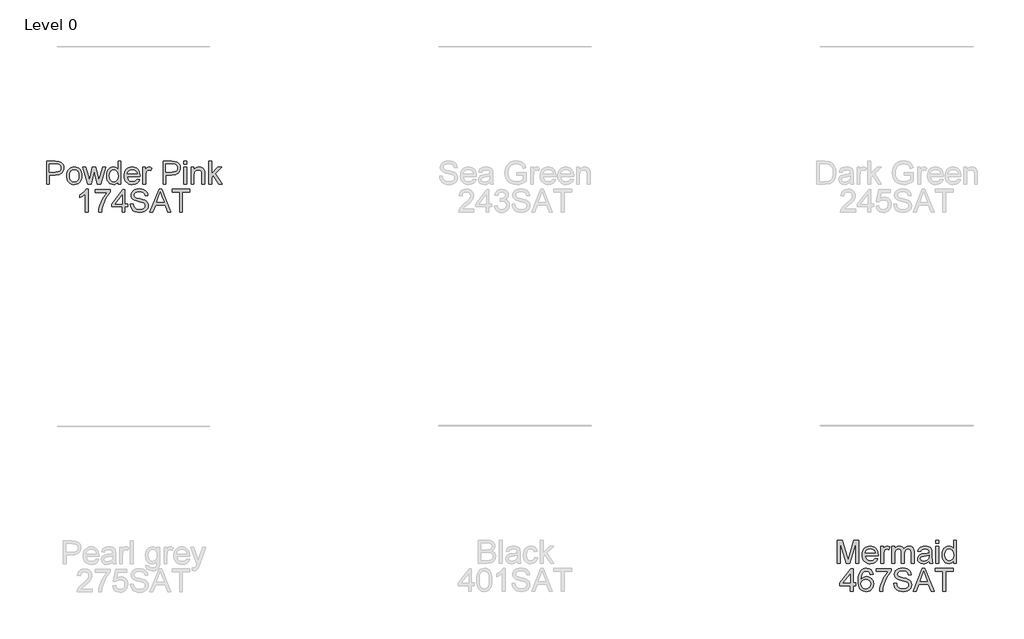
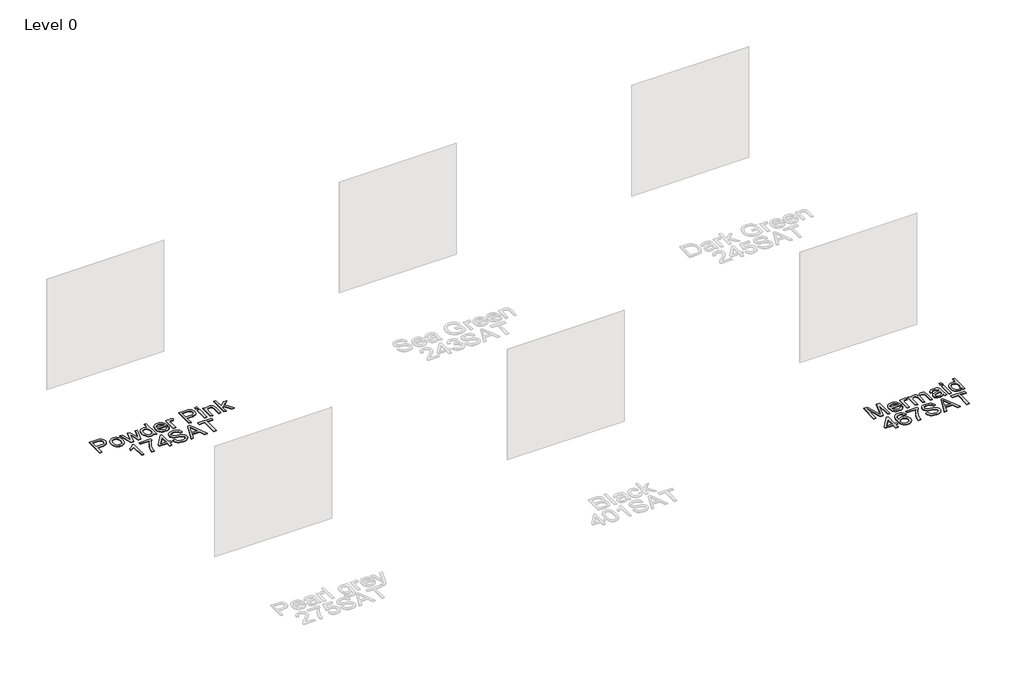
# One storey, part 30 of 37: 2 proxies.
"""IFC4 building model written with IfcOpenShell, lengths in millimetres."""

from ifc_helpers import new_model, si_unit, origin, origin_with_axes, place, context, project, spatial, polyline, outline, extrude, element, save

model = new_model("IFC4")

# Units and contexts
model_context = context("Model", 3, world=origin())
ifc_project = project(units=[si_unit("LENGTHUNIT", "METRE", prefix="MILLI")], contexts=[model_context])

# Site, building, storey
site = spatial("IfcSite", under=ifc_project)
building = spatial("IfcBuilding", under=site)
storey = spatial("IfcBuildingStorey", under=building, Name="Level 0", Elevation=0.0)

# Proxies
placement = place(None, origin())
element("IfcBuildingElementProxy", 1, Name="300mm Arial", ObjectType="300mm Arial", at=placement, inside=storey, context=model_context, shape_type="SweptSolid", body=[
    extrude(outline(polyline([(17412.1451202, -7002.860494), (17412.1451202, -6701.4915635), (17523.8340939, -6701.4915635), (17568.8628501, -6704.3610431), (17588.94001, -6709.7229232), (17605.4671087, -6718.4509235), (17618.7752398, -6730.9405172), (17629.1954974, -6747.5871775), (17635.9277379, -6767.222879), (17638.171818, -6788.6795964), (17636.6566041, -6807.1794622), (17632.1109622, -6824.198603), (17624.5348923, -6839.7370188), (17613.9283946, -6853.7947095), (17599.3671653, -6865.4473717), (17579.9269012, -6873.7707019), (17555.607602, -6878.7647), (17526.4092679, -6880.429366), (17449.8162365, -6880.429366), (17449.8162365, -7002.860494), (17412.1451202, -7002.860494)]), holes=[polyline([(17449.8162365, -6842.7582497), (17528.6165599, -6842.7582497), (17562.020245, -6839.3001589), (17584.0931647, -6828.9258867), (17596.3988175, -6812.2792264), (17600.5007017, -6790.0039716), (17598.0818776, -6773.0813998), (17590.8254053, -6758.8075784), (17579.6325956, -6748.0654241), (17565.4047594, -6741.7378538), (17527.7336431, -6739.1626798), (17449.8162365, -6739.1626798), (17449.8162365, -6842.7582497)])]), origin_with_axes(), (0.0, 0.0, 1.0), 10.0),
    extrude(outline(polyline([(17675.8429343, -6892.2015898), (17677.8800809, -6863.5389839), (17683.9915205, -6838.8403064), (17694.1772533, -6818.1055575), (17708.4372791, -6801.334737), (17722.793874, -6790.6155754), (17738.6403909, -6782.9590314), (17755.9768299, -6778.3651049), (17774.803191, -6776.8337961), (17795.5862245, -6778.698498), (17814.3780967, -6784.2926036), (17831.1788075, -6793.6161129), (17845.9883571, -6806.669026), (17858.0755799, -6823.0098843), (17866.7093105, -6842.1972296), (17871.8895488, -6864.2310619), (17873.616295, -6889.1113811), (17870.5628744, -6927.1687735), (17861.4026127, -6956.1394806), (17846.4022244, -6977.8353213), (17825.8284238, -6994.0681143), (17801.3918622, -7004.1940662), (17774.803191, -7007.5693835), (17753.7166549, -7005.7115794), (17734.7500388, -7000.1381672), (17717.9033427, -6990.8491468), (17703.1765666, -6977.8445183), (17691.2181025, -6961.3450108), (17682.6763424, -6941.5713536), (17677.5512864, -6918.5235466), (17675.8429343, -6892.2015898)]), holes=[polyline([(17713.5140507, -6892.1280134), (17717.8734523, -6926.2214773), (17730.9516572, -6950.5108861), (17750.633344, -6965.0514219), (17774.803191, -6969.8982672), (17798.8626735, -6965.0238308), (17818.5075721, -6950.4005215), (17831.585777, -6925.789216), (17835.9451786, -6890.950791), (17831.5581859, -6857.8506085), (17818.3972075, -6833.8922936), (17798.7247178, -6819.3517577), (17774.803191, -6814.5049125), (17750.633344, -6819.3333636), (17730.9516572, -6833.8187172), (17717.8734523, -6858.0529436), (17713.5140507, -6892.1280134)])]), origin_with_axes(), (0.0, 0.0, 1.0), 10.0),
    extrude(outline(polyline([(17952.7109239, -7002.860494), (17885.3885188, -6781.5426857), (17924.5311631, -6781.5426857), (17962.7173142, -6910.669266), (17974.121656, -6956.8016682), (17983.4658587, -6912.3615232), (18013.8529115, -6781.5426857), (18058.7345149, -6781.5426857), (18088.9744149, -6911.9936412), (18097.288548, -6952.2399314), (18109.2079247, -6909.7863492), (18147.4676522, -6781.5426857), (18186.7574492, -6781.5426857), (18118.9200093, -7002.860494), (18073.3762183, -7002.860494), (18044.4606935, -6873.0717261), (18036.072984, -6832.6047066), (17998.7697497, -7002.860494), (17952.7109239, -7002.860494)])), origin_with_axes(), (0.0, 0.0, 1.0), 10.0),
    extrude(outline(polyline([(18349.2141383, -7002.860494), (18349.2141383, -6967.3230932), (18337.9431537, -6984.9308452), (18324.2901331, -6997.507811), (18308.2550767, -7005.0539904), (18289.8379843, -7007.5693835), (18265.4841962, -7003.9273518), (18243.1905473, -6993.0012565), (18224.318201, -6975.5544529), (18210.2283205, -6952.350296), (18201.454335, -6924.3268851), (18198.5296731, -6892.422319), (18201.2244087, -6860.9132261), (18209.3086156, -6832.4575538), (18222.7730966, -6808.6739828), (18241.6086547, -6791.181194), (18264.3897473, -6780.4206456), (18289.6908315, -6776.8337961), (18308.1217195, -6779.3997731), (18324.4188918, -6787.0977038), (18338.2328608, -6798.8975188), (18349.2141383, -6813.7691485), (18349.2141383, -6701.4915635), (18386.8852546, -6701.4915635), (18386.8852546, -7002.860494), (18349.2141383, -7002.860494)]), holes=[polyline([(18236.2007894, -6892.2751662), (18240.4498264, -6926.350236), (18253.1969376, -6950.5844625), (18271.719796, -6965.069816), (18293.296075, -6969.8982672), (18314.863157, -6965.2905452), (18332.9169659, -6951.4673793), (18345.1398452, -6928.1712519), (18349.2141383, -6895.1446458), (18345.0662688, -6859.037028), (18332.6226603, -6834.0026582), (18314.1089989, -6819.3793489), (18291.7509707, -6814.5049125), (18269.9539625, -6819.1862108), (18252.0932916, -6833.230106), (18240.1739149, -6857.3539678), (18236.2007894, -6892.2751662)])]), origin_with_axes(), (0.0, 0.0, 1.0), 10.0),
    extrude(outline(polyline([(18598.3438255, -6936.9360404), (18635.2791778, -6941.64493), (18621.9710466, -6969.4752029), (18600.7350584, -6990.2789297), (18572.0494598, -7003.2467701), (18536.3924975, -7007.5693835), (18513.0181952, -7005.7046817), (18492.1914757, -7000.1105761), (18473.9123391, -6990.7870668), (18458.1807853, -6977.7341537), (18445.5302432, -6961.3151204), (18436.4941417, -6941.8932503), (18431.0724808, -6919.4685435), (18429.2652605, -6894.0409998), (18431.0908749, -6867.7512327), (18436.5677181, -6844.5792656), (18445.6957901, -6824.5250983), (18458.4750909, -6807.5887309), (18474.165258, -6794.133447), (18492.0259288, -6784.5225298), (18512.0571035, -6778.7559796), (18534.2587819, -6776.8337961), (18555.7453897, -6778.751381), (18575.1764568, -6784.5041357), (18592.5519833, -6794.0920602), (18607.8719691, -6807.5151545), (18620.3776577, -6824.4147337), (18629.3102924, -6844.4321128), (18634.6698732, -6867.5672917), (18636.4564002, -6893.8202706), (18636.235671, -6903.9738137), (18466.9363768, -6903.9738137), (18473.4570851, -6932.1719686), (18488.6046263, -6952.902119), (18510.4660139, -6965.6492302), (18537.1282615, -6969.8982672), (18557.1778302, -6967.9300985), (18574.0636138, -6962.0255925), (18587.7856122, -6951.8168672), (18598.3438255, -6936.9360404)]), holes=[polyline([(18466.9363768, -6866.3026974), (18598.7852838, -6866.3026974), (18593.6901182, -6846.4002814), (18583.702122, -6832.1632482), (18561.7395669, -6818.9194964), (18534.1116291, -6814.5049125), (18508.7185744, -6818.0273826), (18487.7217095, -6828.5947929), (18473.1259913, -6845.0667092), (18466.9363768, -6866.3026974)])]), origin_with_axes(), (0.0, 0.0, 1.0), 10.0),
    extrude(outline(polyline([(18674.1275165, -7002.860494), (18674.1275165, -6781.5426857), (18707.0897432, -6781.5426857), (18707.0897432, -6814.2841833), (18719.2666373, -6795.3014723), (18730.4870381, -6784.1178596), (18741.7442272, -6778.654812), (18754.0314858, -6776.8337961), (18772.7934676, -6779.7400639), (18791.8497549, -6788.4588672), (18779.2681907, -6822.2304343), (18766.0244389, -6816.4362929), (18752.780687, -6814.5049125), (18741.532695, -6816.3627165), (18731.4803195, -6821.9361288), (18723.3593245, -6830.8020848), (18717.9054739, -6842.5375205), (18713.325343, -6863.5803706), (18711.7986328, -6886.5362071), (18711.7986328, -7002.860494), (18674.1275165, -7002.860494)])), origin_with_axes(), (0.0, 0.0, 1.0), 10.0),
    extrude(outline(polyline([(18937.8253306, -7002.860494), (18937.8253306, -6701.4915635), (19049.5143043, -6701.4915635), (19094.5430605, -6704.3610431), (19114.6202204, -6709.7229232), (19131.1473191, -6718.4509235), (19144.4554502, -6730.9405172), (19154.8757078, -6747.5871775), (19161.6079483, -6767.222879), (19163.8520284, -6788.6795964), (19162.3368145, -6807.1794622), (19157.7911726, -6824.198603), (19150.2151027, -6839.7370188), (19139.608605, -6853.7947095), (19125.0473757, -6865.4473717), (19105.6071115, -6873.7707019), (19081.2878124, -6878.7647), (19052.0894783, -6880.429366), (18975.4964469, -6880.429366), (18975.4964469, -7002.860494), (18937.8253306, -7002.860494)]), holes=[polyline([(18975.4964469, -6842.7582497), (19054.2967703, -6842.7582497), (19087.7004554, -6839.3001589), (19109.7733751, -6828.9258867), (19122.0790279, -6812.2792264), (19126.1809121, -6790.0039716), (19123.762088, -6773.0813998), (19116.5056157, -6758.8075784), (19105.312806, -6748.0654241), (19091.0849698, -6741.7378538), (19053.4138535, -6739.1626798), (18975.4964469, -6739.1626798), (18975.4964469, -6842.7582497)])]), origin_with_axes(), (0.0, 0.0, 1.0), 10.0),
    extrude(outline(polyline([(19210.9409238, -6739.1626798), (19210.9409238, -6701.4915635), (19248.6120401, -6701.4915635), (19248.6120401, -6739.1626798), (19210.9409238, -6739.1626798)])), origin_with_axes(), (0.0, 0.0, 1.0), 10.0),
    extrude(outline(polyline([(19210.9409238, -7002.860494), (19210.9409238, -6781.5426857), (19248.6120401, -6781.5426857), (19248.6120401, -7002.860494), (19210.9409238, -7002.860494)])), origin_with_axes(), (0.0, 0.0, 1.0), 10.0),
    extrude(outline(polyline([(19305.1187146, -7002.860494), (19305.1187146, -6781.5426857), (19342.7898309, -6781.5426857), (19342.7898309, -6812.4447733), (19355.8772329, -6796.8649708), (19371.5949911, -6785.7365404), (19389.9431056, -6779.0594822), (19410.9215764, -6776.8337961), (19429.4904201, -6778.6272209), (19446.4957653, -6784.0074951), (19460.6776162, -6792.303234), (19470.775977, -6802.8430532), (19482.0699543, -6830.5445674), (19484.056517, -6866.964885), (19484.056517, -7002.860494), (19446.3854007, -7002.860494), (19446.3854007, -6872.0416565), (19442.0443932, -6838.7115477), (19436.0387196, -6828.7879309), (19426.703714, -6821.0900002), (19414.7383521, -6816.1511844), (19400.8416097, -6814.5049125), (19378.7778871, -6818.2021265), (19359.9699201, -6829.2937687), (19352.4536311, -6838.3482643), (19347.0848532, -6850.7228949), (19342.7898309, -6885.4325611), (19342.7898309, -7002.860494), (19305.1187146, -7002.860494)])), origin_with_axes(), (0.0, 0.0, 1.0), 10.0),
    extrude(outline(polyline([(19535.854302, -7002.860494), (19535.854302, -6701.4915635), (19573.5254183, -6701.4915635), (19573.5254183, -6863.4332178), (19657.9911244, -6781.5426857), (19710.0832149, -6781.5426857), (19624.5874392, -6864.4632874), (19714.7921044, -7002.860494), (19670.7934178, -7002.860494), (19597.5849007, -6890.6564855), (19573.5254183, -6913.9802039), (19573.5254183, -7002.860494), (19535.854302, -7002.860494)])), origin_with_axes(), (0.0, 0.0, 1.0), 10.0),
    extrude(outline(polyline([(17958.3763066, -7368.7849475), (17920.7051903, -7368.7849475), (17920.7051903, -7133.9290818), (17885.0206368, -7159.3497277), (17845.3629577, -7178.3692268), (17845.3629577, -7142.7582497), (17874.9498672, -7126.6634124), (17900.5820452, -7107.5151545), (17920.7879638, -7087.1528861), (17934.096095, -7067.4160171), (17958.3763066, -7067.4160171), (17958.3763066, -7368.7849475)])), origin_with_axes(), (0.0, 0.0, 1.0), 10.0),
    extrude(outline(polyline([(18047.8452079, -7109.7960229), (18047.8452079, -7072.1249066), (18245.6185685, -7072.1249066), (18245.6185685, -7102.5855358), (18217.4296106, -7138.2608923), (18189.5165642, -7183.6299393), (18164.8960617, -7234.5540045), (18146.5847354, -7286.8944154), (18137.6084147, -7326.0554538), (18132.6052196, -7368.7849475), (18094.9341033, -7368.7849475), (18099.0083963, -7329.9550029), (18109.9069005, -7283.8042066), (18127.33531, -7234.8850983), (18150.9993193, -7187.7502177), (18178.6272572, -7145.1402856), (18207.9474522, -7109.7960229), (18047.8452079, -7109.7960229)])), origin_with_axes(), (0.0, 0.0, 1.0), 10.0),
    extrude(outline(polyline([(18401.0119232, -7368.7849475), (18401.0119232, -7298.1516044), (18264.4541266, -7298.1516044), (18264.4541266, -7260.4804881), (18410.4297023, -7072.1249066), (18438.6830395, -7072.1249066), (18438.6830395, -7260.4804881), (18476.3541558, -7260.4804881), (18476.3541558, -7298.1516044), (18438.6830395, -7298.1516044), (18438.6830395, -7368.7849475), (18401.0119232, -7368.7849475)]), holes=[polyline([(18401.0119232, -7260.4804881), (18401.0119232, -7144.0826249), (18310.807258, -7260.4804881), (18401.0119232, -7260.4804881)])]), origin_with_axes(), (0.0, 0.0, 1.0), 10.0),
    extrude(outline(polyline([(18509.3163826, -7265.1893777), (18546.9874989, -7265.1893777), (18551.3101124, -7286.0942721), (18559.1276048, -7302.8972822), (18571.3228929, -7316.2330045), (18588.7788936, -7326.7360355), (18610.1160493, -7333.5510494), (18633.9548026, -7335.8227207), (18654.9424704, -7334.1028724), (18673.3181761, -7328.9433274), (18688.2081998, -7320.7763471), (18698.7388219, -7310.0341929), (18705.0020129, -7297.700949), (18707.0897432, -7284.7606998), (18705.5262447, -7272.1515444), (18700.8357493, -7261.2530403), (18691.3076056, -7251.9548229), (18675.2311624, -7244.1465276), (18620.379957, -7229.7623415), (18584.3735067, -7220.2433949), (18561.3348967, -7211.1843008), (18542.582112, -7198.510766), (18529.292375, -7183.1516928), (18521.373715, -7165.4381747), (18518.7341617, -7145.7013056), (18521.9991144, -7123.637583), (18531.7939725, -7103.0637824), (18547.8612187, -7085.6261758), (18569.9433354, -7072.9710352), (18596.4492332, -7065.2731044), (18625.7878223, -7062.7071275), (18657.5728267, -7065.3926661), (18685.3847055, -7073.4492818), (18708.2301774, -7086.7114277), (18725.115961, -7105.013557), (18735.8029329, -7127.2152354), (18740.05197, -7152.1760288), (18702.3808537, -7152.1760288), (18695.4646722, -7129.6984389), (18681.043698, -7113.4748429), (18658.5109258, -7103.6523936), (18627.2593503, -7100.3782438), (18595.2720108, -7103.6156054), (18573.3278498, -7113.3276901), (18560.6359209, -7127.6199056), (18556.405278, -7144.5976597), (18559.4035163, -7159.0738162), (18568.398231, -7170.7172813), (18589.6618104, -7181.1283418), (18629.9081006, -7191.7601314), (18671.4419779, -7201.8584922), (18696.5683182, -7210.669266), (18718.0434296, -7224.3360821), (18733.0254239, -7241.2034716), (18741.8270006, -7261.0874934), (18744.7608595, -7283.8042066), (18741.3855422, -7307.0267576), (18731.2595903, -7328.869751), (18714.796871, -7347.668521), (18692.4112516, -7361.7584014), (18665.4914866, -7370.5599781), (18635.4263306, -7373.4938371), (18598.5185694, -7370.3300519), (18568.1407136, -7360.8386964), (18543.9432754, -7344.9829824), (18525.5767668, -7322.7261217), (18513.7861489, -7295.6132187), (18509.3163826, -7265.1893777)])), origin_with_axes(), (0.0, 0.0, 1.0), 10.0),
    extrude(outline(polyline([(18766.1715916, -7368.7849475), (18886.4690041, -7067.4160171), (18918.5483141, -7067.4160171), (19038.8457265, -7368.7849475), (18999.0408946, -7368.7849475), (18964.5335634, -7274.6071568), (18840.4101783, -7274.6071568), (18805.9764235, -7368.7849475), (18766.1715916, -7368.7849475)]), holes=[polyline([(18854.2425413, -7236.9360404), (18950.7747768, -7236.9360404), (18923.6250856, -7162.8446066), (18902.5086591, -7105.0871334), (18883.7466773, -7156.3698835), (18854.2425413, -7236.9360404)])]), origin_with_axes(), (0.0, 0.0, 1.0), 10.0),
    extrude(outline(polyline([(19154.4342494, -7368.7849475), (19154.4342494, -7105.0871334), (19055.5475691, -7105.0871334), (19055.5475691, -7067.4160171), (19290.992046, -7067.4160171), (19290.992046, -7105.0871334), (19192.1053657, -7105.0871334), (19192.1053657, -7368.7849475), (19154.4342494, -7368.7849475)])), origin_with_axes(), (0.0, 0.0, 1.0), 10.0),
])
element("IfcBuildingElementProxy", 2, Name="300mm Arial", ObjectType="300mm Arial", at=placement, inside=storey, context=model_context, shape_type="SweptSolid", body=[
    extrude(outline(polyline([(27772.3751699, -11972.860494), (27772.3751699, -11671.4915635), (27837.1959774, -11671.4915635), (27898.8529998, -11883.9066275), (27911.2874113, -11928.2731962), (27924.7518923, -11880.2278076), (27985.3788451, -11671.4915635), (28050.1996526, -11671.4915635), (28050.1996526, -11972.860494), (28012.5285363, -11972.860494), (28012.5285363, -11709.1626798), (27936.8184217, -11972.860494), (27885.7564008, -11972.860494), (27810.0462862, -11709.1626798), (27810.0462862, -11972.860494), (27772.3751699, -11972.860494)])), origin_with_axes(), (0.0, 0.0, 1.0), 10.0),
    extrude(outline(polyline([(28266.367113, -11906.9360404), (28303.3024653, -11911.64493), (28289.9943341, -11939.4752029), (28268.758346, -11960.2789297), (28240.0727474, -11973.2467701), (28204.415785, -11977.5693835), (28181.0414827, -11975.7046817), (28160.2147633, -11970.1105761), (28141.9356267, -11960.7870668), (28126.2040728, -11947.7341537), (28113.5535307, -11931.3151204), (28104.5174292, -11911.8932503), (28099.0957683, -11889.4685435), (28097.288548, -11864.0409998), (28099.1141624, -11837.7512327), (28104.5910056, -11814.5792656), (28113.7190776, -11794.5250983), (28126.4983784, -11777.5887309), (28142.1885455, -11764.133447), (28160.0492164, -11754.5225298), (28180.080391, -11748.7559796), (28202.2820694, -11746.8337961), (28223.7686772, -11748.751381), (28243.1997444, -11754.5041357), (28260.5752708, -11764.0920602), (28275.8952567, -11777.5151545), (28288.4009453, -11794.4147337), (28297.3335799, -11814.4321128), (28302.6931608, -11837.5672917), (28304.4796877, -11863.8202706), (28304.2589585, -11873.9738137), (28134.9596643, -11873.9738137), (28141.4803727, -11902.1719686), (28156.6279138, -11922.902119), (28178.4893014, -11935.6492302), (28205.151549, -11939.8982672), (28225.2011177, -11937.9300985), (28242.0869013, -11932.0255925), (28255.8088997, -11921.8168672), (28266.367113, -11906.9360404)]), holes=[polyline([(28134.9596643, -11836.3026974), (28266.8085714, -11836.3026974), (28261.7134058, -11816.4002814), (28251.7254096, -11802.1632482), (28229.7628545, -11788.9194964), (28202.1349166, -11784.5049125), (28176.7418619, -11788.0273826), (28155.7449971, -11798.5947929), (28141.1492789, -11815.0667092), (28134.9596643, -11836.3026974)])]), origin_with_axes(), (0.0, 0.0, 1.0), 10.0),
    extrude(outline(polyline([(28342.150804, -11972.860494), (28342.150804, -11751.5426857), (28375.1130308, -11751.5426857), (28375.1130308, -11784.2841833), (28387.2899248, -11765.3014723), (28398.5103257, -11754.1178596), (28409.7675147, -11748.654812), (28422.0547734, -11746.8337961), (28440.8167551, -11749.7400639), (28459.8730425, -11758.4588672), (28447.2914782, -11792.2304343), (28434.0477264, -11786.4362929), (28420.8039746, -11784.5049125), (28409.5559826, -11786.3627165), (28399.5036071, -11791.9361288), (28391.382612, -11800.8020848), (28385.9287614, -11812.5375205), (28381.3486306, -11833.5803706), (28379.8219203, -11856.5362071), (28379.8219203, -11972.860494), (28342.150804, -11972.860494)])), origin_with_axes(), (0.0, 0.0, 1.0), 10.0),
    extrude(outline(polyline([(28483.4174902, -11972.860494), (28483.4174902, -11751.5426857), (28521.0886065, -11751.5426857), (28521.0886065, -11787.9630032), (28532.4193719, -11771.2335695), (28546.9874989, -11758.1277734), (28564.2963468, -11749.6572905), (28583.8492748, -11746.8337961), (28604.8001545, -11749.7124728), (28621.5939675, -11758.3485026), (28634.1387436, -11772.1716686), (28642.3425121, -11790.6117536), (28656.0737075, -11771.4588972), (28671.7362835, -11757.7782855), (28689.3302399, -11749.5699185), (28708.8555768, -11746.8337961), (28737.1732934, -11751.3863358), (28758.114976, -11765.0439549), (28771.0552251, -11788.1745354), (28775.3686415, -11821.1459592), (28775.3686415, -11972.860494), (28737.6975252, -11972.860494), (28737.6975252, -11837.332767), (28734.2026463, -11805.8788564), (28729.2914216, -11797.2060383), (28721.5475056, -11790.3910244), (28711.5871006, -11785.9764404), (28700.0264089, -11784.5049125), (28679.6181552, -11788.2757029), (28662.980692, -11799.5880743), (28651.916641, -11819.2145787), (28648.228624, -11847.9277684), (28648.228624, -11972.860494), (28610.5575077, -11972.860494), (28610.5575077, -11833.1389122), (28608.3778069, -11811.8385447), (28601.8387044, -11796.6450183), (28590.333195, -11787.5399389), (28573.2542734, -11784.5049125), (28558.7413287, -11786.5282634), (28545.3688181, -11792.5983163), (28534.3323583, -11802.5679184), (28526.8275656, -11816.2899168), (28522.5233462, -11835.3278101), (28521.0886065, -11861.2450966), (28521.0886065, -11972.860494), (28483.4174902, -11972.860494)])), origin_with_axes(), (0.0, 0.0, 1.0), 10.0),
    extrude(outline(polyline([(28973.1420021, -11944.6071568), (28955.1433755, -11960.0398064), (28936.61132, -11970.1381672), (28917.1227713, -11975.7115794), (28896.2546651, -11977.5693835), (28864.7731634, -11973.0996173), (28841.5506125, -11959.6903186), (28827.2308058, -11939.3280501), (28822.4575369, -11913.9993748), (28824.2601587, -11898.3827841), (28829.668024, -11884.2009331), (28838.0097483, -11872.0608273), (28848.6139468, -11862.5694718), (28874.9910858, -11850.2086368), (28907.5854306, -11844.5432541), (28946.1026755, -11838.5835657), (28972.9212729, -11831.5938078), (28973.1420021, -11823.2060983), (28970.5484341, -11806.3938912), (28962.7677299, -11795.3942195), (28945.3669115, -11787.2272392), (28921.123488, -11784.5049125), (28898.6826863, -11786.3167313), (28883.0109133, -11791.7521878), (28872.3239414, -11801.8045633), (28864.8375428, -11817.4671392), (28827.1664265, -11812.7582497), (28833.7055289, -11792.156858), (28843.4635988, -11775.9700502), (28857.3511442, -11763.590821), (28876.2786728, -11754.4121652), (28899.4276474, -11748.7283884), (28925.9795304, -11746.8337961), (28951.4461615, -11748.5076592), (28971.633686, -11753.5292485), (28986.8548035, -11761.0800264), (28997.4222138, -11770.3414556), (29004.4303658, -11781.7917827), (29008.9737085, -11795.9092543), (29010.8131184, -11828.8714811), (29010.8131184, -11875.7396473), (29012.7261048, -11941.1858542), (29020.2308975, -11972.860494), (28982.5597812, -11972.860494), (28973.1420021, -11944.6071568)]), holes=[polyline([(28973.1420021, -11869.2649241), (28912.3678965, -11880.8164188), (28879.9574928, -11886.9232599), (28865.2790012, -11896.8560738), (28860.1286532, -11911.3506244), (28862.9337534, -11922.5526311), (28871.3490541, -11931.7312869), (28885.1906141, -11937.8565221), (28904.2744926, -11939.8982672), (28924.5080024, -11937.64499), (28942.3870673, -11930.8851583), (28956.8816179, -11920.9247533), (28966.9615846, -11909.069756), (28971.4313509, -11896.8560738), (28972.9212729, -11879.933502), (28973.1420021, -11869.2649241)])]), origin_with_axes(), (0.0, 0.0, 1.0), 10.0),
    extrude(outline(polyline([(29062.6109034, -11709.1626798), (29062.6109034, -11671.4915635), (29100.2820197, -11671.4915635), (29100.2820197, -11709.1626798), (29062.6109034, -11709.1626798)])), origin_with_axes(), (0.0, 0.0, 1.0), 10.0),
    extrude(outline(polyline([(29062.6109034, -11972.860494), (29062.6109034, -11751.5426857), (29100.2820197, -11751.5426857), (29100.2820197, -11972.860494), (29062.6109034, -11972.860494)])), origin_with_axes(), (0.0, 0.0, 1.0), 10.0),
    extrude(outline(polyline([(29293.3464907, -11972.860494), (29293.3464907, -11937.3230932), (29282.0755061, -11954.9308452), (29268.4224856, -11967.507811), (29252.3874291, -11975.0539904), (29233.9703367, -11977.5693835), (29209.6165486, -11973.9273518), (29187.3228997, -11963.0012565), (29168.4505534, -11945.5544529), (29154.360673, -11922.350296), (29145.5866874, -11894.3268851), (29142.6620255, -11862.422319), (29145.3567611, -11830.9132261), (29153.440968, -11802.4575538), (29166.905449, -11778.6739828), (29185.7410071, -11761.181194), (29208.5220997, -11750.4206456), (29233.8231839, -11746.8337961), (29252.2540719, -11749.3997731), (29268.5512443, -11757.0977038), (29282.3652132, -11768.8975188), (29293.3464907, -11783.7691485), (29293.3464907, -11671.4915635), (29331.017607, -11671.4915635), (29331.017607, -11972.860494), (29293.3464907, -11972.860494)]), holes=[polyline([(29180.3331418, -11862.2751662), (29184.5821789, -11896.350236), (29197.32929, -11920.5844625), (29215.8521485, -11935.069816), (29237.4284275, -11939.8982672), (29258.9955094, -11935.2905452), (29277.0493184, -11921.4673793), (29289.2721976, -11898.1712519), (29293.3464907, -11865.1446458), (29289.1986212, -11829.037028), (29276.7550128, -11804.0026582), (29258.2413513, -11789.3793489), (29235.8833231, -11784.5049125), (29214.0863149, -11789.1862108), (29196.225644, -11803.230106), (29184.3062674, -11827.3539678), (29180.3331418, -11862.2751662)])]), origin_with_axes(), (0.0, 0.0, 1.0), 10.0),
    extrude(outline(polyline([(27939.5407485, -12338.7849475), (27939.5407485, -12268.1516044), (27802.9829519, -12268.1516044), (27802.9829519, -12230.4804881), (27948.9585276, -12042.1249066), (27977.2118648, -12042.1249066), (27977.2118648, -12230.4804881), (28014.8829811, -12230.4804881), (28014.8829811, -12268.1516044), (27977.2118648, -12268.1516044), (27977.2118648, -12338.7849475), (27939.5407485, -12338.7849475)]), holes=[polyline([(27939.5407485, -12230.4804881), (27939.5407485, -12114.0826249), (27849.3360833, -12230.4804881), (27939.5407485, -12230.4804881)])]), origin_with_axes(), (0.0, 0.0, 1.0), 10.0),
    extrude(outline(polyline([(28240.9096789, -12117.4671392), (28203.2385626, -12122.1760288), (28197.1685097, -12103.5060175), (28188.9647412, -12090.7589064), (28171.8766225, -12079.0050766), (28151.2200485, -12075.0871334), (28133.7088655, -12077.3680017), (28117.2277522, -12084.2106069), (28103.0734924, -12098.622384), (28091.5128007, -12118.4604206), (28083.7045053, -12146.5206198), (28080.8074346, -12185.5988847), (28095.9181876, -12167.9681401), (28114.0271788, -12155.5429257), (28134.1227328, -12148.1760888), (28155.1931741, -12145.7204764), (28173.2929682, -12147.3989381), (28189.9948108, -12152.4343229), (28205.2987018, -12160.8266309), (28219.2046412, -12172.5758621), (28230.7607344, -12186.9830407), (28239.0150867, -12203.349191), (28243.967698, -12221.6743129), (28245.6185685, -12241.9584064), (28242.5099656, -12268.9333537), (28233.184157, -12293.9401323), (28218.4136949, -12315.1485293), (28198.9711315, -12330.7283318), (28175.7393835, -12340.3024607), (28149.6013677, -12343.4938371), (28127.1444712, -12341.3785156), (28106.8626769, -12335.0325512), (28088.755985, -12324.4559438), (28072.8243953, -12309.6486935), (28059.8358616, -12289.9854009), (28050.5583376, -12264.8406665), (28044.9918231, -12234.2144904), (28043.1363183, -12198.1068726), (28045.1964575, -12157.6260575), (28051.376875, -12123.0773396), (28061.6775709, -12094.4607189), (28076.0985451, -12071.7761954), (28091.7289314, -12056.7436174), (28109.8517182, -12046.0060617), (28130.4669055, -12039.5635282), (28153.5744933, -12037.4160171), (28186.6286905, -12042.7319119), (28213.0978001, -12058.6795964), (28231.6390527, -12084.0082718), (28240.9096789, -12117.4671392)]), holes=[polyline([(28080.8074346, -12241.3697952), (28082.9871355, -12258.0624407), (28089.5262379, -12274.0009282), (28099.679781, -12287.7045325), (28112.7028036, -12297.6925287), (28128.4205619, -12303.7901727), (28146.6583118, -12305.8227207), (28171.5179376, -12301.6104719), (28191.0616686, -12288.9737254), (28203.7260063, -12269.1080976), (28207.9474522, -12243.2092052), (28203.7811886, -12218.3495793), (28191.2823978, -12199.3944595), (28171.407573, -12187.3923095), (28145.1132074, -12183.3915928), (28120.2903698, -12187.3923095), (28099.5326282, -12199.3944595), (28085.488733, -12217.8897269), (28080.8074346, -12241.3697952)])]), origin_with_axes(), (0.0, 0.0, 1.0), 10.0),
    extrude(outline(polyline([(28278.5807952, -12079.7960229), (28278.5807952, -12042.1249066), (28476.3541558, -12042.1249066), (28476.3541558, -12072.5855358), (28448.165198, -12108.2608923), (28420.2521516, -12153.6299393), (28395.6316491, -12204.5540045), (28377.3203227, -12256.8944154), (28368.3440021, -12296.0554538), (28363.3408069, -12338.7849475), (28325.6696906, -12338.7849475), (28329.7439837, -12299.9550029), (28340.6424878, -12253.8042066), (28358.0708974, -12204.8850983), (28381.7349067, -12157.7502177), (28409.3628445, -12115.1402856), (28438.6830395, -12079.7960229), (28278.5807952, -12079.7960229)])), origin_with_axes(), (0.0, 0.0, 1.0), 10.0),
    extrude(outline(polyline([(28509.3163826, -12235.1893777), (28546.9874989, -12235.1893777), (28551.3101124, -12256.0942721), (28559.1276048, -12272.8972822), (28571.3228929, -12286.2330045), (28588.7788936, -12296.7360355), (28610.1160493, -12303.5510494), (28633.9548026, -12305.8227207), (28654.9424704, -12304.1028724), (28673.3181761, -12298.9433274), (28688.2081998, -12290.7763471), (28698.7388219, -12280.0341929), (28705.0020129, -12267.700949), (28707.0897432, -12254.7606998), (28705.5262447, -12242.1515444), (28700.8357493, -12231.2530403), (28691.3076056, -12221.9548229), (28675.2311624, -12214.1465276), (28620.379957, -12199.7623415), (28584.3735067, -12190.2433949), (28561.3348967, -12181.1843008), (28542.582112, -12168.510766), (28529.292375, -12153.1516928), (28521.373715, -12135.4381747), (28518.7341617, -12115.7013056), (28521.9991144, -12093.637583), (28531.7939725, -12073.0637824), (28547.8612187, -12055.6261758), (28569.9433354, -12042.9710352), (28596.4492332, -12035.2731044), (28625.7878223, -12032.7071275), (28657.5728267, -12035.3926661), (28685.3847055, -12043.4492818), (28708.2301774, -12056.7114277), (28725.115961, -12075.013557), (28735.8029329, -12097.2152354), (28740.05197, -12122.1760288), (28702.3808537, -12122.1760288), (28695.4646722, -12099.6984389), (28681.043698, -12083.4748429), (28658.5109258, -12073.6523936), (28627.2593503, -12070.3782438), (28595.2720108, -12073.6156054), (28573.3278498, -12083.3276901), (28560.6359209, -12097.6199056), (28556.405278, -12114.5976597), (28559.4035163, -12129.0738162), (28568.398231, -12140.7172813), (28589.6618104, -12151.1283418), (28629.9081006, -12161.7601314), (28671.4419779, -12171.8584922), (28696.5683182, -12180.669266), (28718.0434296, -12194.3360821), (28733.0254239, -12211.2034716), (28741.8270006, -12231.0874934), (28744.7608595, -12253.8042066), (28741.3855422, -12277.0267576), (28731.2595903, -12298.869751), (28714.796871, -12317.668521), (28692.4112516, -12331.7584014), (28665.4914866, -12340.5599781), (28635.4263306, -12343.4938371), (28598.5185694, -12340.3300519), (28568.1407136, -12330.8386964), (28543.9432754, -12314.9829824), (28525.5767668, -12292.7261217), (28513.7861489, -12265.6132187), (28509.3163826, -12235.1893777)])), origin_with_axes(), (0.0, 0.0, 1.0), 10.0),
    extrude(outline(polyline([(28766.1715916, -12338.7849475), (28886.4690041, -12037.4160171), (28918.5483141, -12037.4160171), (29038.8457265, -12338.7849475), (28999.0408946, -12338.7849475), (28964.5335634, -12244.6071568), (28840.4101783, -12244.6071568), (28805.9764235, -12338.7849475), (28766.1715916, -12338.7849475)]), holes=[polyline([(28854.2425413, -12206.9360404), (28950.7747768, -12206.9360404), (28923.6250856, -12132.8446066), (28902.5086591, -12075.0871334), (28883.7466773, -12126.3698835), (28854.2425413, -12206.9360404)])]), origin_with_axes(), (0.0, 0.0, 1.0), 10.0),
    extrude(outline(polyline([(29154.4342494, -12338.7849475), (29154.4342494, -12075.0871334), (29055.5475691, -12075.0871334), (29055.5475691, -12037.4160171), (29290.992046, -12037.4160171), (29290.992046, -12075.0871334), (29192.1053657, -12075.0871334), (29192.1053657, -12338.7849475), (29154.4342494, -12338.7849475)])), origin_with_axes(), (0.0, 0.0, 1.0), 10.0),
])

save(model, "model.ifc")
